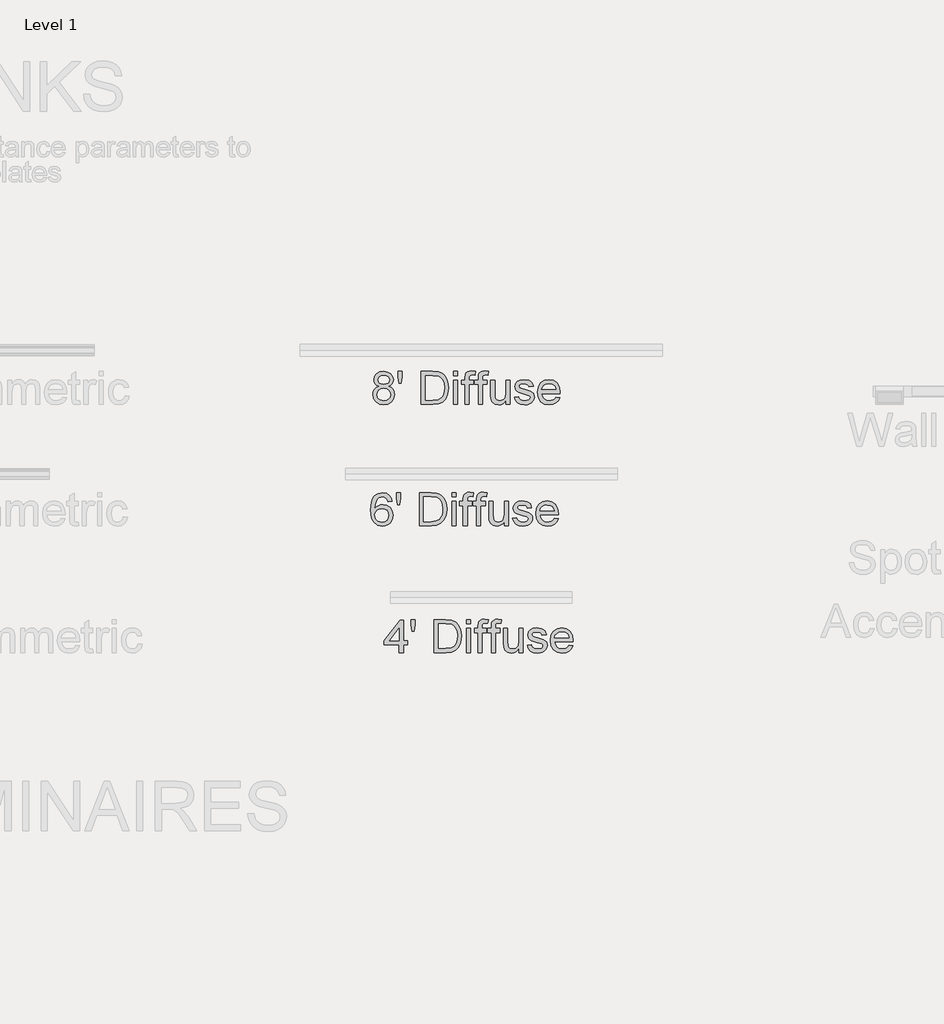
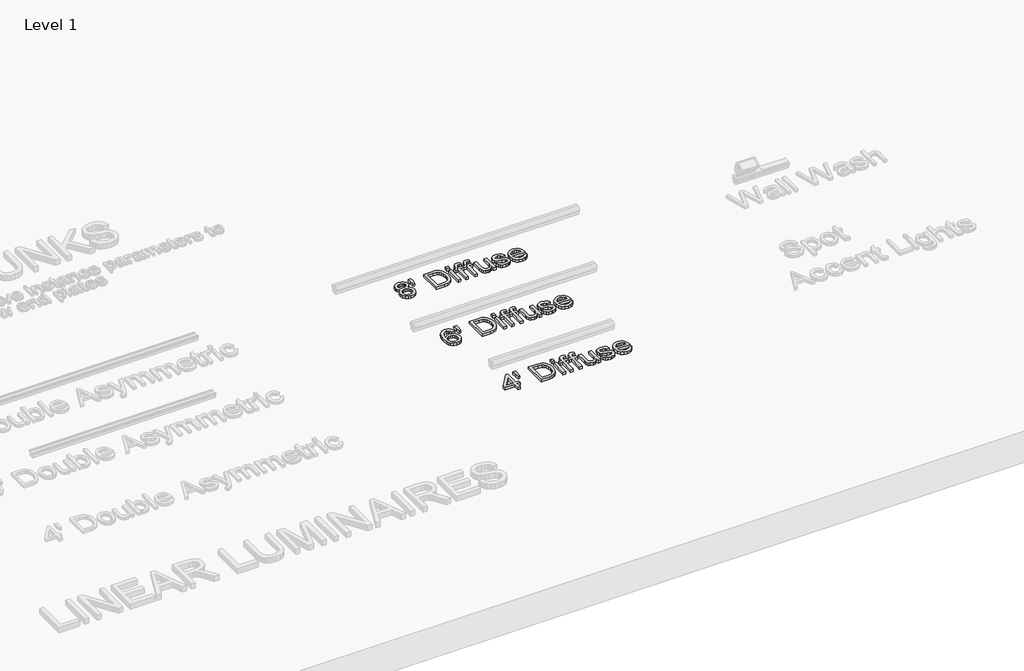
# One storey, part 4 of 9: 3 proxies.
"""IFC4 building model written with IfcOpenShell, lengths in millimetres."""

import ifcopenshell
import ifcopenshell.guid

model = None  # the IFC model being written
_history = None  # IfcOwnerHistory: only IFC2X3 demands one
_inside = {}  # id of a spatial element -> (the spatial element, [elements in it])
_under = {}  # id of a project, library or spatial element -> (it, [spatial elements below it])
_declared = {}  # id of a project -> (the project, [libraries it declares])
_typed = {}  # id of a type object -> (the type object, [elements of that type])
_made_of = {}  # id of a material, layer set ... -> (it, [elements and type objects made of it])


def new_model(schema):
    """Start an empty IFC model of exactly this schema.

    Asked for "IFC4X3", IfcOpenShell would pick the latest addendum, in which some entities
    have other attributes; the version numbers below select the first issue.
    IFC2X3 requires an IfcOwnerHistory on every rooted entity: one is made here for all.
    """
    global model, _history
    if schema == "IFC4X3":
        model = ifcopenshell.file(schema_version=(4, 3, 0, 0))
    else:
        model = ifcopenshell.file(schema=schema)
    _inside.clear()
    _under.clear()
    _declared.clear()
    _typed.clear()
    _made_of.clear()
    _history = None
    if model.schema == "IFC2X3":
        org = make("IfcOrganization", Name="unknown")
        user = make(
            "IfcPersonAndOrganization",
            ThePerson=make("IfcPerson", FamilyName="unknown"),
            TheOrganization=org,
        )
        app = make(
            "IfcApplication",
            ApplicationDeveloper=org,
            Version="unknown",
            ApplicationFullName="unknown",
            ApplicationIdentifier="unknown",
        )
        _history = make(
            "IfcOwnerHistory",
            OwningUser=user,
            OwningApplication=app,
            ChangeAction="ADDED",
            CreationDate=0,
        )
    return model


def make(cls, **values):
    """One entity of the class cls with the attributes given. An attribute that is None is left unset."""
    return model.create_entity(
        cls, **{name: value for name, value in values.items() if value is not None}
    )


def rooted(cls, **values):
    """An entity with a GlobalId (a new one), such as an element, a storey or a relation."""
    return make(cls, GlobalId=ifcopenshell.guid.new(), OwnerHistory=_history, **values)


def si_unit(unit_type, name, prefix=None):
    """IfcSIUnit, for example si_unit("LENGTHUNIT", "METRE", prefix="MILLI")."""
    return make("IfcSIUnit", UnitType=unit_type, Prefix=prefix, Name=name)


def assignment(units):
    """IfcUnitAssignment: the units of a project."""
    return None if units is None else make("IfcUnitAssignment", Units=units)


def point(xyz):
    """IfcCartesianPoint."""
    return None if xyz is None else make("IfcCartesianPoint", Coordinates=xyz)


def direction(xyz):
    """IfcDirection."""
    return None if xyz is None else make("IfcDirection", DirectionRatios=xyz)


def frame(location, z_axis=None, x_axis=None):
    """IfcAxis2Placement3D, a coordinate frame: its origin and axes. An axis left out is left unset."""
    return make(
        "IfcAxis2Placement3D",
        Location=point(location),
        Axis=direction(z_axis),
        RefDirection=direction(x_axis),
    )


def origin():
    """The frame at (0, 0, 0) with its axes left unset."""
    return frame((0.0, 0.0, 0.0))


def origin_with_axes():
    """The frame at (0, 0, 0) with the z axis (0, 0, 1) and the x axis (1, 0, 0) written out."""
    return frame((0.0, 0.0, 0.0), z_axis=(0.0, 0.0, 1.0), x_axis=(1.0, 0.0, 0.0))


def place(relative_to, where):
    """IfcLocalPlacement: puts the frame where relative to a parent placement (None: the world)."""
    return make(
        "IfcLocalPlacement", PlacementRelTo=relative_to, RelativePlacement=where
    )


def context(
    kind, dimensions, precision=None, world=None, true_north=None, identifier=None
):
    """IfcGeometricRepresentationContext, for example the 3D "Model" context."""
    return make(
        "IfcGeometricRepresentationContext",
        ContextIdentifier=identifier,
        ContextType=kind,
        CoordinateSpaceDimension=dimensions,
        Precision=precision,
        WorldCoordinateSystem=world,
        TrueNorth=true_north,
    )


def project(units=None, contexts=None):
    """IfcProject with its units and contexts."""
    return rooted(
        "IfcProject",
        Name="project",
        RepresentationContexts=contexts,
        UnitsInContext=assignment(units),
    )


def spatial(cls, under=None, at=None, **own):
    """A site, building, storey or space (cls), placed at a placement, below another one or the project."""
    s = rooted(cls, ObjectPlacement=at, **own)
    if under is not None:
        _under.setdefault(under.id(), (under, []))[1].append(s)
    return s


def polyline(points):
    """IfcPolyline through the points."""
    return make("IfcPolyline", Points=[point(p) for p in points])


def outline(outer, holes=None, kind="AREA"):
    """IfcArbitraryClosedProfileDef: a profile drawn as a closed curve; with holes, ...WithVoids."""
    if holes is None:
        return make("IfcArbitraryClosedProfileDef", ProfileType=kind, OuterCurve=outer)
    return make(
        "IfcArbitraryProfileDefWithVoids",
        ProfileType=kind,
        OuterCurve=outer,
        InnerCurves=holes,
    )


def extrude(swept, where, along, depth):
    """IfcExtrudedAreaSolid: the profile swept, set in the frame where, extruded along a direction by depth."""
    return make(
        "IfcExtrudedAreaSolid",
        SweptArea=swept,
        Position=where,
        ExtrudedDirection=direction(along),
        Depth=depth,
    )


def shape(context_of_items, identifier, shape_type, items):
    """IfcShapeRepresentation: the items that make up one representation, for example the "Body"."""
    return make(
        "IfcShapeRepresentation",
        ContextOfItems=context_of_items,
        RepresentationIdentifier=identifier,
        RepresentationType=shape_type,
        Items=items,
    )


def made_of(thing, what):
    """Note that an element or type object is made of a material, layer set ...; save() writes the relation."""
    if what is not None:
        _made_of.setdefault(what.id(), (what, []))[1].append(thing)
    return thing


def element(
    cls,
    number,
    at=None,
    inside=None,
    cuts=None,
    type_object=None,
    material=None,
    context=None,
    identifier="Body",
    shape_type=None,
    held_by="IfcProductDefinitionShape",
    body=None,
    shapes=None,
    **own,
):
    """One element of the class cls, such as IfcWall. Its Tag is "e" and its number.

    at: its placement. inside: the storey or other place that contains it. cuts: it is an
    opening in that element (IfcRelVoidsElement). A single representation is given by context,
    identifier, shape_type and body (its items); several are given by shapes. held_by: the class
    of the entity that holds the representations. save() writes the other relations.
    """
    e = rooted(cls, Tag="e%d" % number, ObjectPlacement=at, **own)
    if body is not None:
        shapes = [shape(context, identifier, shape_type, body)]
    if shapes is not None:
        e.Representation = make(held_by, Representations=shapes)
    if inside is not None:
        _inside.setdefault(inside.id(), (inside, []))[1].append(e)
    if cuts is not None:
        rooted(
            "IfcRelVoidsElement", RelatingBuildingElement=cuts, RelatedOpeningElement=e
        )
    if type_object is not None:
        _typed.setdefault(type_object.id(), (type_object, []))[1].append(e)
    return made_of(e, material)


def aggregate(whole, parts):
    """IfcRelAggregates: a whole, such as a stair, and the parts it consists of."""
    return rooted("IfcRelAggregates", RelatingObject=whole, RelatedObjects=parts)


def save(model, path):
    """Write the relations noted so far, then the file.

    IfcRelAggregates (storeys below a building ...), IfcRelContainedInSpatialStructure (elements
    in a storey), IfcRelDefinesByType, IfcRelAssociatesMaterial and IfcRelDeclares: one each for
    every whole, place, type object, material and project.
    """
    for whole, parts in _under.values():
        aggregate(whole, parts)
    for where, things in _inside.values():
        rooted(
            "IfcRelContainedInSpatialStructure",
            RelatedElements=things,
            RelatingStructure=where,
        )
    for kind, things in _typed.values():
        rooted("IfcRelDefinesByType", RelatedObjects=things, RelatingType=kind)
    for what, things in _made_of.values():
        rooted("IfcRelAssociatesMaterial", RelatedObjects=things, RelatingMaterial=what)
    for by, libraries in _declared.values():
        rooted("IfcRelDeclares", RelatingContext=by, RelatedDefinitions=libraries)
    model.write(path)


model = new_model("IFC4")

# Units and contexts
model_context = context("Model", 3, world=origin())
ifc_project = project(units=[si_unit("LENGTHUNIT", "METRE", prefix="MILLI")], contexts=[model_context])

# Site, building, storey
site = spatial("IfcSite", under=ifc_project)
building = spatial("IfcBuilding", under=site)
storey = spatial("IfcBuildingStorey", under=building, Name="Level 1", Elevation=0.0)

# Proxies
placement = place(None, origin())
element("IfcBuildingElementProxy", 1, Name="8\"", ObjectType="8\"", at=placement, inside=storey, context=model_context, shape_type="SweptSolid", body=[
    extrude(outline(polyline([(-4871.6665134, 7557.6503784), (-4885.2552918, 7564.3425265), (-4894.7916028, 7573.414105), (-4900.4241608, 7584.6792209), (-4902.3016801, 7597.9519812), (-4898.2120341, 7617.7929609), (-4885.9430959, 7634.1887237), (-4866.870474, 7645.1935894), (-4842.3697763, 7648.8618779), (-4817.7203643, 7645.1068393), (-4798.399885, 7633.8417234), (-4785.9078753, 7617.1857104), (-4781.743872, 7597.2579807), (-4783.5966056, 7584.4127742), (-4789.1548064, 7573.3397478), (-4798.4804386, 7564.3239372), (-4811.6354667, 7557.6503784), (-4796.0142581, 7549.6012114), (-4784.6438029, 7537.7474344), (-4777.7099939, 7522.6591191), (-4775.3987242, 7504.9063374), (-4779.9840849, 7480.6411042), (-4793.7401671, 7460.5894458), (-4814.9815407, 7447.1307924), (-4842.0227761, 7442.6445747), (-4869.0640114, 7447.1493817), (-4890.3053851, 7460.663803), (-4904.0614672, 7480.9075509), (-4908.6468279, 7505.6003379), (-4906.2426117, 7524.0409237), (-4899.0299633, 7539.2097926), (-4887.3806685, 7550.5864444), (-4871.6665134, 7557.6503784)]), holes=[polyline([(-4876.9210889, 7597.2084092), (-4874.6717836, 7586.1291863), (-4867.9238676, 7577.2806794), (-4856.8756269, 7571.4808177), (-4841.7253473, 7569.5475305), (-4826.9282643, 7571.4684249), (-4816.0473273, 7577.2311079), (-4809.3551792, 7585.782186), (-4807.1244632, 7596.0682654), (-4809.4295364, 7606.7447202), (-4816.3447561, 7615.5746378), (-4827.3744075, 7621.5046245), (-4842.0227761, 7623.4812868), (-4856.7640911, 7621.5479996), (-4867.7751532, 7615.7481379), (-4874.634605, 7607.2466313), (-4876.9210889, 7597.2084092)]), polyline([(-4883.2662367, 7506.4926243), (-4879.0278763, 7487.3828238), (-4873.1598539, 7479.1849424), (-4864.0325075, 7473.0814555), (-4841.8244902, 7468.0251658), (-4824.5488339, 7470.6834358), (-4811.5858952, 7478.6582455), (-4803.4809604, 7490.7350942), (-4800.7793154, 7505.6994809), (-4803.5677104, 7520.9179213), (-4811.9328955, 7533.2612166), (-4825.193263, 7541.4405087), (-4842.6672051, 7544.1669394), (-4859.7012005, 7541.4776873), (-4872.5340141, 7533.409931), (-4880.5831811, 7521.3021001), (-4883.2662367, 7506.4926243)])]), origin_with_axes(), (0.0, 0.0, 1.0), 25.4),
    extrude(outline(polyline([(-4747.4899882, 7575.8926783), (-4753.190707, 7614.4097083), (-4753.190707, 7648.8618779), (-4727.8101158, 7648.8618779), (-4727.8101158, 7614.4097083), (-4733.7586918, 7575.8926783), (-4747.4899882, 7575.8926783)])), origin_with_axes(), (0.0, 0.0, 1.0), 25.4),
    extrude(outline(polyline([(-4610.4248816, 7445.8171486), (-4610.4248816, 7648.8618779), (-4540.3803986, 7648.8618779), (-4504.1436561, 7645.9371614), (-4487.9585721, 7640.298407), (-4474.3016329, 7631.4127215), (-4460.2605148, 7615.9464238), (-4450.2594713, 7596.7126945), (-4444.2737167, 7574.0833198), (-4442.2784651, 7548.4300855), (-4447.681755, 7507.4592679), (-4461.5617658, 7477.8898878), (-4480.1014945, 7459.4740878), (-4504.3667277, 7449.2871513), (-4537.0095388, 7445.8171486), (-4610.4248816, 7445.8171486)]), holes=[polyline([(-4585.0442904, 7471.1977397), (-4540.1325412, 7471.1977397), (-4507.4649444, 7474.8660283), (-4488.6277869, 7485.2264649), (-4479.8102622, 7496.2127413), (-4473.1862749, 7510.433556), (-4469.0408609, 7527.9508732), (-4467.6590563, 7548.8266573), (-4470.3668977, 7576.4875359), (-4478.4904218, 7596.9109804), (-4490.4929133, 7610.9397056), (-4504.8376566, 7619.4164265), (-4540.8265418, 7623.4812868), (-4585.0442904, 7623.4812868), (-4585.0442904, 7471.1977397)])]), origin_with_axes(), (0.0, 0.0, 1.0), 25.4),
    extrude(outline(polyline([(-4410.5527261, 7445.8171486), (-4410.5527261, 7594.9281217), (-4385.172135, 7594.9281217), (-4385.172135, 7445.8171486), (-4410.5527261, 7445.8171486)])), origin_with_axes(), (0.0, 0.0, 1.0), 25.4),
    extrude(outline(polyline([(-4410.5527261, 7623.4812868), (-4410.5527261, 7648.8618779), (-4385.172135, 7648.8618779), (-4385.172135, 7623.4812868), (-4410.5527261, 7623.4812868)])), origin_with_axes(), (0.0, 0.0, 1.0), 25.4),
    extrude(outline(polyline([(-4340.7561004, 7445.8171486), (-4340.7561004, 7569.5475305), (-4362.9641177, 7569.5475305), (-4362.9641177, 7594.9281217), (-4340.7561004, 7594.9281217), (-4340.7561004, 7609.9482762), (-4338.0792412, 7631.1152927), (-4332.9733801, 7639.554835), (-4325.0915168, 7646.2345902), (-4314.0618654, 7650.5844864), (-4299.5126398, 7652.0344518), (-4276.3627646, 7649.2584497), (-4280.0806246, 7625.4641455), (-4294.7042074, 7626.6538607), (-4310.6910056, 7622.440286), (-4314.2043833, 7616.4049598), (-4315.3755092, 7606.7261309), (-4315.3755092, 7594.9281217), (-4286.8223442, 7594.9281217), (-4286.8223442, 7569.5475305), (-4315.3755092, 7569.5475305), (-4315.3755092, 7445.8171486), (-4340.7561004, 7445.8171486)])), origin_with_axes(), (0.0, 0.0, 1.0), 25.4),
    extrude(outline(polyline([(-4258.2691791, 7445.8171486), (-4258.2691791, 7569.5475305), (-4280.4771964, 7569.5475305), (-4280.4771964, 7594.9281217), (-4258.2691791, 7594.9281217), (-4258.2691791, 7609.9482762), (-4255.5923199, 7631.1152927), (-4250.4864588, 7639.554835), (-4242.6045955, 7646.2345902), (-4231.574944, 7650.5844864), (-4217.0257184, 7652.0344518), (-4193.8758433, 7649.2584497), (-4197.5937033, 7625.4641455), (-4212.2172861, 7626.6538607), (-4228.2040843, 7622.440286), (-4231.717462, 7616.4049598), (-4232.8885879, 7606.7261309), (-4232.8885879, 7594.9281217), (-4204.3354229, 7594.9281217), (-4204.3354229, 7569.5475305), (-4232.8885879, 7569.5475305), (-4232.8885879, 7445.8171486), (-4258.2691791, 7445.8171486)])), origin_with_axes(), (0.0, 0.0, 1.0), 25.4),
    extrude(outline(polyline([(-4086.9501887, 7445.8171486), (-4086.9501887, 7471.4455971), (-4096.133303, 7458.8451498), (-4106.828347, 7449.8448303), (-4119.0353208, 7444.4446386), (-4132.7542243, 7442.6445747), (-4156.6228857, 7447.7008643), (-4173.0806128, 7460.3911599), (-4180.6402616, 7479.079603), (-4182.1274056, 7502.6756214), (-4182.1274056, 7594.9281217), (-4156.7468144, 7594.9281217), (-4156.7468144, 7514.6223449), (-4155.2100989, 7488.7460391), (-4151.5108282, 7480.1144074), (-4145.1718768, 7473.5523844), (-4126.2603621, 7468.0251658), (-4105.0685599, 7473.6763131), (-4096.6228212, 7480.3498719), (-4091.0646205, 7489.0682536), (-4086.9501887, 7517.3487756), (-4086.9501887, 7594.9281217), (-4061.5695975, 7594.9281217), (-4061.5695975, 7445.8171486), (-4086.9501887, 7445.8171486)])), origin_with_axes(), (0.0, 0.0, 1.0), 25.4),
    extrude(outline(polyline([(-4036.1890063, 7490.2331831), (-4010.8084152, 7493.405757), (-4006.8055192, 7482.5496057), (-3999.0599775, 7474.5685995), (-3987.5222185, 7469.6610243), (-3972.1426708, 7468.0251658), (-3956.9490161, 7469.5247027), (-3946.266365, 7474.0233134), (-3939.9460029, 7480.5419613), (-3937.8392155, 7488.10161), (-3939.9583958, 7494.5706865), (-3946.3159364, 7499.5030475), (-3972.4400996, 7506.7404817), (-4010.6597008, 7519.1581342), (-4020.3323333, 7525.3979426), (-4027.3404995, 7533.6577883), (-4033.0164324, 7554.1308043), (-4028.4558575, 7573.042319), (-4016.0134192, 7587.4924016), (-3999.8779067, 7595.0024789), (-3978.0416754, 7598.1006956), (-3947.1586514, 7593.1187632), (-3935.6084995, 7587.2569372), (-3927.5283504, 7579.6353241), (-3918.8037722, 7556.8572349), (-3944.1843633, 7553.684661), (-3947.3879194, 7561.6718637), (-3953.7268708, 7567.6886005), (-3976.0588167, 7572.7201044), (-3990.632828, 7571.5179963), (-4000.3488356, 7567.9116721), (-4005.8140899, 7562.7066681), (-4007.6358413, 7556.7085205), (-4004.6119818, 7549.3223719), (-3995.1438316, 7543.7207962), (-3973.2828145, 7538.3175062), (-3936.029857, 7526.3707827), (-3918.729415, 7512.8377721), (-3914.026322, 7502.8863001), (-3912.4586244, 7490.7784693), (-3914.2989651, 7478.2616738), (-3919.8199872, 7466.4884504), (-3928.8110121, 7456.3820675), (-3941.0613609, 7448.8657938), (-3955.8584439, 7444.1998794), (-3972.4896711, 7442.6445747), (-3998.080941, 7445.6436484), (-4016.7569912, 7454.6408697), (-4029.2242152, 7469.5370956), (-4036.1890063, 7490.2331831)])), origin_with_axes(), (0.0, 0.0, 1.0), 25.4),
    extrude(outline(polyline([(-3779.5079495, 7490.2331831), (-3754.623073, 7487.0606092), (-3763.5893121, 7468.3102018), (-3777.8968768, 7454.2938694), (-3797.2235526, 7445.5568984), (-3821.2471248, 7442.6445747), (-3851.0271837, 7447.6698821), (-3873.9415944, 7462.7458046), (-3888.5527844, 7486.8933055), (-3893.423181, 7519.1333485), (-3888.5032129, 7552.4577672), (-3882.3532527, 7565.9690902), (-3873.7433085, 7577.3798223), (-3851.1387195, 7592.9204773), (-3822.6846974, 7598.1006956), (-3795.1167652, 7592.9328702), (-3773.0884445, 7577.4293938), (-3758.6445583, 7552.5569102), (-3753.8299295, 7519.2820629), (-3753.9786439, 7512.4412004), (-3868.0425898, 7512.4412004), (-3863.6493185, 7493.4429356), (-3853.4437928, 7479.4761747), (-3838.7148706, 7470.8879181), (-3820.7514102, 7468.0251658), (-3795.8665337, 7473.3293128), (-3786.6214551, 7480.2073539), (-3779.5079495, 7490.2331831)]), holes=[polyline([(-3868.0425898, 7537.8217916), (-3779.2105207, 7537.8217916), (-3782.6433448, 7551.2308734), (-3789.3726715, 7560.8229523), (-3804.1697544, 7569.7458164), (-3822.7838403, 7572.7201044), (-3839.8921929, 7570.3468704), (-3854.0386504, 7563.2271685), (-3863.8723902, 7552.1293563), (-3868.0425898, 7537.8217916)])]), origin_with_axes(), (0.0, 0.0, 1.0), 25.4),
])
element("IfcBuildingElementProxy", 2, Name="8\"", ObjectType="8\"", at=placement, inside=storey, context=model_context, shape_type="SweptSolid", body=[
    extrude(outline(polyline([(-4788.9885644, 6846.8178101), (-4814.3691556, 6843.6452362), (-4823.9860202, 6864.8122526), (-4835.4989934, 6872.7312945), (-4849.4161828, 6875.3709751), (-4872.3182007, 6869.2241132), (-4881.8545116, 6859.5143021), (-4889.6434284, 6846.1485953), (-4894.9042004, 6827.243277), (-4896.8560769, 6800.9146315), (-4886.6753368, 6812.7931943), (-4874.4745595, 6821.1645758), (-4860.9353525, 6826.127919), (-4846.7393236, 6827.7823667), (-4823.2920197, 6823.2589703), (-4803.6121472, 6809.6887812), (-4790.2650297, 6788.9555151), (-4785.8159905, 6762.9428877), (-4787.910385, 6744.7687485), (-4794.1935685, 6727.9206461), (-4804.1450405, 6713.6316707), (-4817.2443007, 6703.1349126), (-4832.8964914, 6696.6844254), (-4850.5067551, 6694.534263), (-4879.3015811, 6700.2349818), (-4902.2345811, 6717.3371379), (-4910.9854941, 6730.5851125), (-4917.2361463, 6747.5261614), (-4922.2366681, 6792.4874821), (-4920.848667, 6819.7610837), (-4916.6846637, 6843.0379857), (-4909.7446583, 6862.3181882), (-4900.0286508, 6877.6016912), (-4889.4978122, 6887.7297615), (-4877.2877402, 6894.9640975), (-4847.8298959, 6900.7515663), (-4825.5599143, 6897.1700278), (-4807.726579, 6886.4254123), (-4795.2345693, 6869.3604347), (-4788.9885644, 6846.8178101)]), holes=[polyline([(-4896.8560769, 6763.3394594), (-4890.981858, 6741.3545137), (-4875.3668459, 6725.3925013), (-4852.4896138, 6719.9148542), (-4835.7406543, 6722.7528207), (-4822.5732334, 6731.2667202), (-4814.0407446, 6744.6510163), (-4811.1965817, 6762.1001727), (-4814.003566, 6778.8491322), (-4822.424519, 6791.6199814), (-4835.8150115, 6799.706327), (-4853.5306146, 6802.4017755), (-4870.2547883, 6799.706327), (-4884.2401385, 6791.6199814), (-4893.7020923, 6779.1589539), (-4896.8560769, 6763.3394594)])]), origin_with_axes(), (0.0, 0.0, 1.0), 25.4),
    extrude(outline(polyline([(-4757.9072545, 6827.7823667), (-4763.6079732, 6866.2993966), (-4763.6079732, 6900.7515663), (-4738.2273821, 6900.7515663), (-4738.2273821, 6866.2993966), (-4744.1759581, 6827.7823667), (-4757.9072545, 6827.7823667)])), origin_with_axes(), (0.0, 0.0, 1.0), 25.4),
    extrude(outline(polyline([(-4620.8421479, 6697.7068369), (-4620.8421479, 6900.7515663), (-4550.7976648, 6900.7515663), (-4514.5609224, 6897.8268497), (-4498.3758383, 6892.1880954), (-4484.7188991, 6883.3024099), (-4470.6777811, 6867.8361121), (-4460.6767376, 6848.6023829), (-4454.6909829, 6825.9730081), (-4452.6957314, 6800.3197739), (-4458.0990213, 6759.3489563), (-4471.9790321, 6729.7795762), (-4490.5187608, 6711.3637761), (-4514.783994, 6701.1768396), (-4547.4268051, 6697.7068369), (-4620.8421479, 6697.7068369)]), holes=[polyline([(-4595.4615567, 6723.0874281), (-4550.5498075, 6723.0874281), (-4517.8822107, 6726.7557167), (-4499.0450531, 6737.1161533), (-4490.2275284, 6748.1024297), (-4483.6035411, 6762.3232443), (-4479.4581272, 6779.8405615), (-4478.0763225, 6800.7163456), (-4480.7841639, 6828.3772243), (-4488.9076881, 6848.8006687), (-4500.9101796, 6862.8293939), (-4515.2549229, 6871.3061148), (-4551.243808, 6875.3709751), (-4595.4615567, 6875.3709751), (-4595.4615567, 6723.0874281)])]), origin_with_axes(), (0.0, 0.0, 1.0), 25.4),
    extrude(outline(polyline([(-4420.9699924, 6697.7068369), (-4420.9699924, 6846.8178101), (-4395.5894012, 6846.8178101), (-4395.5894012, 6697.7068369), (-4420.9699924, 6697.7068369)])), origin_with_axes(), (0.0, 0.0, 1.0), 25.4),
    extrude(outline(polyline([(-4420.9699924, 6875.3709751), (-4420.9699924, 6900.7515663), (-4395.5894012, 6900.7515663), (-4395.5894012, 6875.3709751), (-4420.9699924, 6875.3709751)])), origin_with_axes(), (0.0, 0.0, 1.0), 25.4),
    extrude(outline(polyline([(-4351.1733667, 6697.7068369), (-4351.1733667, 6821.4372189), (-4373.381384, 6821.4372189), (-4373.381384, 6846.8178101), (-4351.1733667, 6846.8178101), (-4351.1733667, 6861.8379646), (-4348.4965075, 6883.0049811), (-4343.3906463, 6891.4445234), (-4335.5087831, 6898.1242785), (-4324.4791316, 6902.4741748), (-4309.929906, 6903.9241402), (-4286.7800309, 6901.148138), (-4290.4978909, 6877.3538338), (-4305.1214737, 6878.543549), (-4321.1082719, 6874.3299743), (-4324.6216496, 6868.2946482), (-4325.7927755, 6858.6158192), (-4325.7927755, 6846.8178101), (-4297.2396104, 6846.8178101), (-4297.2396104, 6821.4372189), (-4325.7927755, 6821.4372189), (-4325.7927755, 6697.7068369), (-4351.1733667, 6697.7068369)])), origin_with_axes(), (0.0, 0.0, 1.0), 25.4),
    extrude(outline(polyline([(-4268.6864454, 6697.7068369), (-4268.6864454, 6821.4372189), (-4290.8944626, 6821.4372189), (-4290.8944626, 6846.8178101), (-4268.6864454, 6846.8178101), (-4268.6864454, 6861.8379646), (-4266.0095861, 6883.0049811), (-4260.903725, 6891.4445234), (-4253.0218618, 6898.1242785), (-4241.9922103, 6902.4741748), (-4227.4429847, 6903.9241402), (-4204.2931096, 6901.148138), (-4208.0109696, 6877.3538338), (-4222.6345524, 6878.543549), (-4238.6213506, 6874.3299743), (-4242.1347283, 6868.2946482), (-4243.3058542, 6858.6158192), (-4243.3058542, 6846.8178101), (-4214.7526891, 6846.8178101), (-4214.7526891, 6821.4372189), (-4243.3058542, 6821.4372189), (-4243.3058542, 6697.7068369), (-4268.6864454, 6697.7068369)])), origin_with_axes(), (0.0, 0.0, 1.0), 25.4),
    extrude(outline(polyline([(-4097.367455, 6697.7068369), (-4097.367455, 6723.3352854), (-4106.5505692, 6710.7348381), (-4117.2456133, 6701.7345186), (-4129.4525871, 6696.3343269), (-4143.1714906, 6694.534263), (-4167.040152, 6699.5905527), (-4183.4978791, 6712.2808483), (-4191.0575278, 6730.9692914), (-4192.5446719, 6754.5653097), (-4192.5446719, 6846.8178101), (-4167.1640807, 6846.8178101), (-4167.1640807, 6766.5120333), (-4165.6273652, 6740.6357275), (-4161.9280945, 6732.0040957), (-4155.5891431, 6725.4420728), (-4136.6776284, 6719.9148542), (-4115.4858262, 6725.5660015), (-4107.0400875, 6732.2395602), (-4101.4818867, 6740.957942), (-4097.367455, 6769.238464), (-4097.367455, 6846.8178101), (-4071.9868638, 6846.8178101), (-4071.9868638, 6697.7068369), (-4097.367455, 6697.7068369)])), origin_with_axes(), (0.0, 0.0, 1.0), 25.4),
    extrude(outline(polyline([(-4046.6062726, 6742.1228715), (-4021.2256814, 6745.2954454), (-4017.2227855, 6734.4392941), (-4009.4772437, 6726.4582879), (-3997.9394848, 6721.5507126), (-3982.5599371, 6719.9148542), (-3967.3662824, 6721.4143911), (-3956.6836312, 6725.9130017), (-3950.3632692, 6732.4316497), (-3948.2564818, 6739.9912984), (-3950.375662, 6746.4603749), (-3956.7332027, 6751.3927358), (-3982.8573659, 6758.63017), (-4021.076967, 6771.0478226), (-4030.7495996, 6777.287631), (-4037.7577657, 6785.5474767), (-4043.4336987, 6806.0204926), (-4038.8731237, 6824.9320073), (-4026.4306855, 6839.38209), (-4010.2951729, 6846.8921673), (-3988.4589417, 6849.990384), (-3957.5759176, 6845.0084515), (-3946.0257658, 6839.1466255), (-3937.9456167, 6831.5250125), (-3929.2210384, 6808.7469233), (-3954.6016296, 6805.5743494), (-3957.8051857, 6813.5615521), (-3964.144137, 6819.5782889), (-3986.476083, 6824.6097928), (-4001.0500943, 6823.4076847), (-4010.7661019, 6819.8013605), (-4016.2313561, 6814.5963564), (-4018.0531075, 6808.5982089), (-4015.029248, 6801.2120603), (-4005.5610978, 6795.6104845), (-3983.7000808, 6790.2071946), (-3946.4471233, 6778.260471), (-3929.1466812, 6764.7274605), (-3924.4435883, 6754.7759885), (-3922.8758906, 6742.6681576), (-3924.7162314, 6730.1513622), (-3930.2372535, 6718.3781387), (-3939.2282784, 6708.2717559), (-3951.4786272, 6700.7554822), (-3966.2757101, 6696.0895678), (-3982.9069373, 6694.534263), (-4008.4982073, 6697.5333368), (-4027.1742575, 6706.5305581), (-4039.6414815, 6721.426784), (-4046.6062726, 6742.1228715)])), origin_with_axes(), (0.0, 0.0, 1.0), 25.4),
    extrude(outline(polyline([(-3789.9252158, 6742.1228715), (-3765.0403393, 6738.9502976), (-3774.0065784, 6720.1998901), (-3788.3141431, 6706.1835578), (-3807.6408189, 6697.4465867), (-3831.6643911, 6694.534263), (-3861.44445, 6699.5595705), (-3884.3588607, 6714.635493), (-3898.9700506, 6738.7829939), (-3903.8404473, 6771.0230368), (-3898.9204792, 6804.3474556), (-3892.770519, 6817.8587786), (-3884.1605748, 6829.2695107), (-3861.5559858, 6844.8101656), (-3833.1019637, 6849.990384), (-3805.5340315, 6844.8225585), (-3783.5057108, 6829.3190822), (-3769.0618246, 6804.4465985), (-3764.2471958, 6771.1717512), (-3764.3959102, 6764.3308888), (-3878.4598561, 6764.3308888), (-3874.0665848, 6745.332624), (-3863.861059, 6731.3658631), (-3849.1321369, 6722.7776064), (-3831.1686765, 6719.9148542), (-3806.2837999, 6725.2190012), (-3797.0387213, 6732.0970423), (-3789.9252158, 6742.1228715)]), holes=[polyline([(-3878.4598561, 6789.7114799), (-3789.627787, 6789.7114799), (-3793.0606111, 6803.1205618), (-3799.7899378, 6812.7126407), (-3814.5870207, 6821.6355048), (-3833.2011066, 6824.6097928), (-3850.3094592, 6822.2365588), (-3864.4559166, 6815.1168568), (-3874.2896564, 6804.0190446), (-3878.4598561, 6789.7114799)])]), origin_with_axes(), (0.0, 0.0, 1.0), 25.4),
])
element("IfcBuildingElementProxy", 3, Name="8\"", ObjectType="8\"", at=placement, inside=storey, context=model_context, shape_type="SweptSolid", body=[
    extrude(outline(polyline([(-4746.2941985, 5914.8723044), (-4746.2941985, 5962.4609128), (-4838.2988415, 5962.4609128), (-4838.2988415, 5987.841504), (-4739.9490507, 6114.7444599), (-4720.9136073, 6114.7444599), (-4720.9136073, 5987.841504), (-4695.5330162, 5987.841504), (-4695.5330162, 5962.4609128), (-4720.9136073, 5962.4609128), (-4720.9136073, 5914.8723044), (-4746.2941985, 5914.8723044)]), holes=[polyline([(-4746.2941985, 5987.841504), (-4746.2941985, 6066.263565), (-4807.0688172, 5987.841504), (-4746.2941985, 5987.841504)])]), origin_with_axes(), (0.0, 0.0, 1.0), 25.4),
    extrude(outline(polyline([(-4667.6242802, 6044.9478341), (-4673.3249989, 6083.4648641), (-4673.3249989, 6117.9170338), (-4647.9444077, 6117.9170338), (-4647.9444077, 6083.4648641), (-4653.8929838, 6044.9478341), (-4667.6242802, 6044.9478341)])), origin_with_axes(), (0.0, 0.0, 1.0), 25.4),
    extrude(outline(polyline([(-4530.5591735, 5914.8723044), (-4530.5591735, 6117.9170338), (-4460.5146905, 6117.9170338), (-4424.277948, 6114.9923172), (-4408.092864, 6109.3535628), (-4394.4359248, 6100.4678773), (-4380.3948067, 6085.0015796), (-4370.3937632, 6065.7678503), (-4364.4080086, 6043.1384756), (-4362.412757, 6017.4852413), (-4367.8160469, 5976.5144238), (-4381.6960577, 5946.9450436), (-4400.2357864, 5928.5292436), (-4424.5010196, 5918.3423071), (-4457.1438307, 5914.8723044), (-4530.5591735, 5914.8723044)]), holes=[polyline([(-4505.1785824, 5940.2528956), (-4460.2668331, 5940.2528956), (-4427.5992363, 5943.9211841), (-4408.7620788, 5954.2816208), (-4399.9445541, 5965.2678972), (-4393.3205668, 5979.4887118), (-4389.1751528, 5997.006029), (-4387.7933482, 6017.8818131), (-4390.5011896, 6045.5426917), (-4398.6247138, 6065.9661362), (-4410.6272052, 6079.9948614), (-4424.9719485, 6088.4715823), (-4460.9608337, 6092.5364426), (-4505.1785824, 6092.5364426), (-4505.1785824, 5940.2528956)])]), origin_with_axes(), (0.0, 0.0, 1.0), 25.4),
    extrude(outline(polyline([(-4330.6870181, 5914.8723044), (-4330.6870181, 6063.9832775), (-4305.3064269, 6063.9832775), (-4305.3064269, 5914.8723044), (-4330.6870181, 5914.8723044)])), origin_with_axes(), (0.0, 0.0, 1.0), 25.4),
    extrude(outline(polyline([(-4330.6870181, 6092.5364426), (-4330.6870181, 6117.9170338), (-4305.3064269, 6117.9170338), (-4305.3064269, 6092.5364426), (-4330.6870181, 6092.5364426)])), origin_with_axes(), (0.0, 0.0, 1.0), 25.4),
    extrude(outline(polyline([(-4260.8903923, 5914.8723044), (-4260.8903923, 6038.6026863), (-4283.0984096, 6038.6026863), (-4283.0984096, 6063.9832775), (-4260.8903923, 6063.9832775), (-4260.8903923, 6079.0034321), (-4258.2135331, 6100.1704485), (-4253.107672, 6108.6099908), (-4245.2258087, 6115.289746), (-4234.1961573, 6119.6396422), (-4219.6469317, 6121.0896077), (-4196.4970565, 6118.3136055), (-4200.2149166, 6094.5193013), (-4214.8384994, 6095.7090165), (-4230.8252975, 6091.4954418), (-4234.3386752, 6085.4601157), (-4235.5098012, 6075.7812867), (-4235.5098012, 6063.9832775), (-4206.9566361, 6063.9832775), (-4206.9566361, 6038.6026863), (-4235.5098012, 6038.6026863), (-4235.5098012, 5914.8723044), (-4260.8903923, 5914.8723044)])), origin_with_axes(), (0.0, 0.0, 1.0), 25.4),
    extrude(outline(polyline([(-4178.403471, 5914.8723044), (-4178.403471, 6038.6026863), (-4200.6114883, 6038.6026863), (-4200.6114883, 6063.9832775), (-4178.403471, 6063.9832775), (-4178.403471, 6079.0034321), (-4175.7266118, 6100.1704485), (-4170.6207507, 6108.6099908), (-4162.7388874, 6115.289746), (-4151.709236, 6119.6396422), (-4137.1600104, 6121.0896077), (-4114.0101352, 6118.3136055), (-4117.7279952, 6094.5193013), (-4132.351578, 6095.7090165), (-4148.3383762, 6091.4954418), (-4151.8517539, 6085.4601157), (-4153.0228798, 6075.7812867), (-4153.0228798, 6063.9832775), (-4124.4697148, 6063.9832775), (-4124.4697148, 6038.6026863), (-4153.0228798, 6038.6026863), (-4153.0228798, 5914.8723044), (-4178.403471, 5914.8723044)])), origin_with_axes(), (0.0, 0.0, 1.0), 25.4),
    extrude(outline(polyline([(-4007.0844806, 5914.8723044), (-4007.0844806, 5940.5007529), (-4016.2675949, 5927.9003056), (-4026.9626389, 5918.8999861), (-4039.1696127, 5913.4997944), (-4052.8885162, 5911.6997305), (-4076.7571777, 5916.7560201), (-4093.2149047, 5929.4463157), (-4100.7745535, 5948.1347588), (-4102.2616975, 5971.7307772), (-4102.2616975, 6063.9832775), (-4076.8811063, 6063.9832775), (-4076.8811063, 5983.6775008), (-4075.3443908, 5957.8011949), (-4071.6451201, 5949.1695632), (-4065.3061688, 5942.6075402), (-4046.394654, 5937.0803217), (-4025.2028518, 5942.7314689), (-4016.7571131, 5949.4050277), (-4011.1989124, 5958.1234095), (-4007.0844806, 5986.4039315), (-4007.0844806, 6063.9832775), (-3981.7038894, 6063.9832775), (-3981.7038894, 5914.8723044), (-4007.0844806, 5914.8723044)])), origin_with_axes(), (0.0, 0.0, 1.0), 25.4),
    extrude(outline(polyline([(-3956.3232983, 5959.2883389), (-3930.9427071, 5962.4609128), (-3926.9398111, 5951.6047615), (-3919.1942694, 5943.6237553), (-3907.6565104, 5938.7161801), (-3892.2769627, 5937.0803217), (-3877.083308, 5938.5798585), (-3866.4006569, 5943.0784692), (-3860.0802948, 5949.5971171), (-3857.9735075, 5957.1567658), (-3860.0926877, 5963.6258423), (-3866.4502283, 5968.5582033), (-3892.5743915, 5975.7956375), (-3930.7939927, 5988.21329), (-3940.4666252, 5994.4530984), (-3947.4747914, 6002.7129441), (-3953.1507244, 6023.1859601), (-3948.5901494, 6042.0974748), (-3936.1477111, 6056.5475575), (-3920.0121986, 6064.0576347), (-3898.1759673, 6067.1558514), (-3867.2929433, 6062.173919), (-3855.7427914, 6056.312093), (-3847.6626423, 6048.6904799), (-3838.9380641, 6025.9123908), (-3864.3186553, 6022.7398169), (-3867.5222113, 6030.7270195), (-3873.8611627, 6036.7437563), (-3896.1931086, 6041.7752602), (-3910.76712, 6040.5731522), (-3920.4831275, 6036.9668279), (-3925.9483818, 6031.7618239), (-3927.7701332, 6025.7636764), (-3924.7462737, 6018.3775278), (-3915.2781235, 6012.775952), (-3893.4171065, 6007.3726621), (-3856.1641489, 5995.4259385), (-3838.8637069, 5981.8929279), (-3834.1606139, 5971.9414559), (-3832.5929163, 5959.8336251), (-3834.433257, 5947.3168296), (-3839.9542792, 5935.5436062), (-3848.945304, 5925.4372233), (-3861.1956528, 5917.9209496), (-3875.9927358, 5913.2550353), (-3892.623963, 5911.6997305), (-3918.2152329, 5914.6988042), (-3936.8912831, 5923.6960255), (-3949.3585071, 5938.5922514), (-3956.3232983, 5959.2883389)])), origin_with_axes(), (0.0, 0.0, 1.0), 25.4),
    extrude(outline(polyline([(-3699.6422414, 5959.2883389), (-3674.7573649, 5956.115765), (-3683.7236041, 5937.3653576), (-3698.0311688, 5923.3490253), (-3717.3578445, 5914.6120542), (-3741.3814168, 5911.6997305), (-3771.1614756, 5916.725038), (-3794.0758863, 5931.8009604), (-3808.6870763, 5955.9484613), (-3813.5574729, 5988.1885043), (-3808.6375048, 6021.5129231), (-3802.4875447, 6035.0242461), (-3793.8776005, 6046.4349782), (-3771.2730114, 6061.9756331), (-3742.8189893, 6067.1558514), (-3715.2510572, 6061.988026), (-3693.2227364, 6046.4845496), (-3678.7788502, 6021.612066), (-3673.9642215, 5988.3372187), (-3674.1129359, 5981.4963562), (-3788.1768817, 5981.4963562), (-3783.7836105, 5962.4980914), (-3773.5780847, 5948.5313306), (-3758.8491625, 5939.9430739), (-3740.8857021, 5937.0803217), (-3716.0008256, 5942.3844686), (-3706.755747, 5949.2625097), (-3699.6422414, 5959.2883389)]), holes=[polyline([(-3788.1768817, 6006.8769474), (-3699.3448126, 6006.8769474), (-3702.7776367, 6020.2860292), (-3709.5069634, 6029.8781081), (-3724.3040463, 6038.8009722), (-3742.9181322, 6041.7752602), (-3760.0264848, 6039.4020263), (-3774.1729423, 6032.2823243), (-3784.0066821, 6021.1845121), (-3788.1768817, 6006.8769474)])]), origin_with_axes(), (0.0, 0.0, 1.0), 25.4),
])

save(model, "model.ifc")
